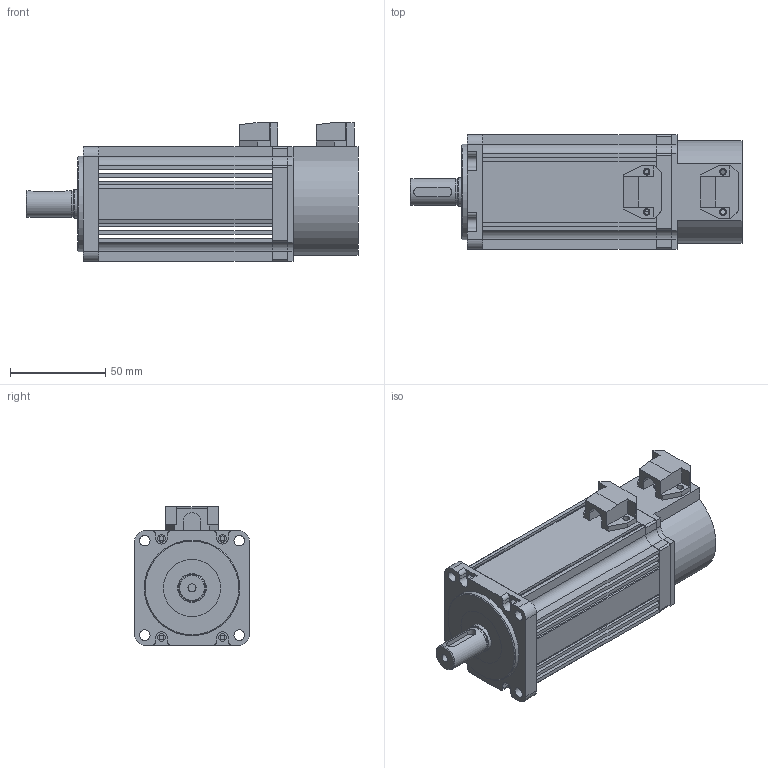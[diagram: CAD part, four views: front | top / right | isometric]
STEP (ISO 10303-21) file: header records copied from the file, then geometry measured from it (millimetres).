
FILE_DESCRIPTION (( 'STEP AP203' ), '1' );
FILE_NAME ('60-01330.STEP', '2019-12-11T08:12:07', ( '微软用户' ), ( '微软中国' ), 'SwSTEP 2.0', 'SolidWorks 2016', '' );
FILE_SCHEMA (( 'CONFIG_CONTROL_DESIGN' ));
Length unit declared in the file: millimetre
Products named in the file (1): 60-01330
Bounding box: 174 x 60 x 72.5 mm (x, y, z)
Surface area: 56446.3 mm2 (no closed solid volume)
Topology: 0 solids, 9 shells, 245 faces, 752 edges, 519 vertices
Faces by surface type: plane 170, cylinder 70, cone 5
Full cylindrical faces by diameter (mm): 3.5 x4, 4 x8, 4.2 x1, 5.5 x4, 8 x1, 13.6 x1, 14 x1, 15 x1, 30 x1, 50 x1
Entity records: 8544 total; most frequent: CARTESIAN_POINT 1861, DIRECTION 1368, ORIENTED_EDGE 1215, EDGE_CURVE 706, VECTOR 530, LINE 530, VERTEX_POINT 502, AXIS2_PLACEMENT_3D 419
